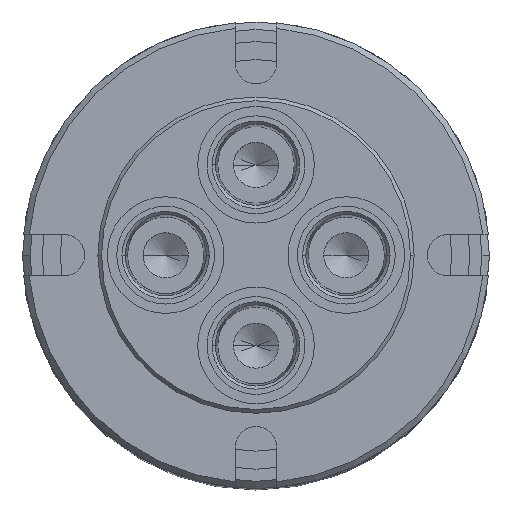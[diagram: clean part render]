
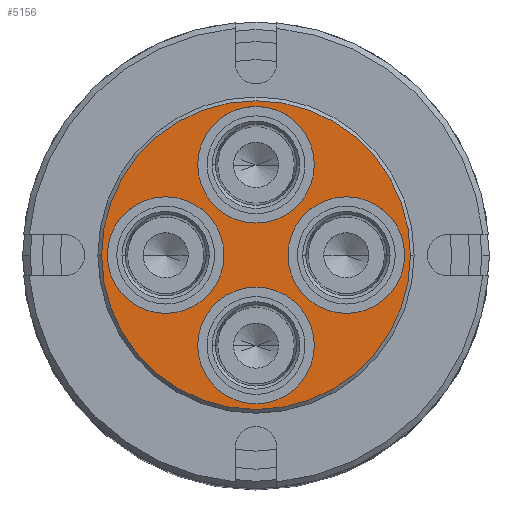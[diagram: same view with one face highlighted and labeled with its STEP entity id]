
A CAD part, top view. The second image highlights one B-rep face of the part: STEP entity #5156.
In plain terms, the highlighted planar face has unit normal (0, 0, 1).
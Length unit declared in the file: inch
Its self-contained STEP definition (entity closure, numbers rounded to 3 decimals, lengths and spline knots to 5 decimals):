
#32 = AXIS2_PLACEMENT_3D ( 'NONE', #6604, #6605, #6606 ) ;
#125 = CIRCLE ( 'NONE', #32, 0.484 ) ;
#148 = AXIS2_PLACEMENT_3D ( 'NONE', #6716, #6717, #6718 ) ;
#253 = CIRCLE ( 'NONE', #148, 0.484 ) ;
#311 = VERTEX_POINT ( 'NONE', #1729 ) ;
#390 = VERTEX_POINT ( 'NONE', #1762 ) ;
#435 = VERTEX_POINT ( 'NONE', #1803 ) ;
#446 = VERTEX_POINT ( 'NONE', #1811 ) ;
#464 = VERTEX_POINT ( 'NONE', #1827 ) ;
#469 = VERTEX_POINT ( 'NONE', #1832 ) ;
#508 = VERTEX_POINT ( 'NONE', #1858 ) ;
#565 = VERTEX_POINT ( 'NONE', #1910 ) ;
#658 = AXIS2_PLACEMENT_3D ( 'NONE', #3019, #3020, #3021 ) ;
#670 = AXIS2_PLACEMENT_3D ( 'NONE', #4291, #4292, #4293 ) ;
#673 = AXIS2_PLACEMENT_3D ( 'NONE', #2046, #2047, #2048 ) ;
#766 = CIRCLE ( 'NONE', #866, 0.484 ) ;
#810 = CIRCLE ( 'NONE', #670, 0.484 ) ;
#866 = AXIS2_PLACEMENT_3D ( 'NONE', #2816, #2817, #2818 ) ;
#873 = CIRCLE ( 'NONE', #1010, 1.2815 ) ;
#893 = CIRCLE ( 'NONE', #658, 0.484 ) ;
#923 = CIRCLE ( 'NONE', #1085, 0.484 ) ;
#954 = AXIS2_PLACEMENT_3D ( 'NONE', #2183, #2184, #2185 ) ;
#1010 = AXIS2_PLACEMENT_3D ( 'NONE', #1927, #1928, #1929 ) ;
#1085 = AXIS2_PLACEMENT_3D ( 'NONE', #3287, #3288, #3289 ) ;
#1165 = CIRCLE ( 'NONE', #954, 0.484 ) ;
#1245 = CARTESIAN_POINT ( 'NONE',  ( 0.484, -0.75, 0. ) ) ;
#1296 = CIRCLE ( 'NONE', #1308, 1.2815 ) ;
#1308 = AXIS2_PLACEMENT_3D ( 'NONE', #4445, #4446, #4447 ) ;
#1480 = ORIENTED_EDGE ( 'NONE', *, *, #5574, .T. ) ;
#1729 = CARTESIAN_POINT ( 'NONE',  ( -1.234, 0., 0. ) ) ;
#1762 = CARTESIAN_POINT ( 'NONE',  ( -0.266, 0., 0. ) ) ;
#1803 = CARTESIAN_POINT ( 'NONE',  ( 1.234, 0., 0. ) ) ;
#1811 = CARTESIAN_POINT ( 'NONE',  ( 0.484, 0.75, 0. ) ) ;
#1827 = CARTESIAN_POINT ( 'NONE',  ( 0.266, 0., 0. ) ) ;
#1832 = CARTESIAN_POINT ( 'NONE',  ( 1.2815, 0., 0. ) ) ;
#1858 = CARTESIAN_POINT ( 'NONE',  ( -0.484, 0.75, 0. ) ) ;
#1910 = CARTESIAN_POINT ( 'NONE',  ( -1.2815, 0., 0. ) ) ;
#1927 = CARTESIAN_POINT ( 'NONE',  ( 0., 0., 0. ) ) ;
#1928 = DIRECTION ( 'NONE',  ( 0., 0., 1. ) ) ;
#1929 = DIRECTION ( 'NONE',  ( -1., 0., 0. ) ) ;
#2029 = FACE_OUTER_BOUND ( 'NONE', #7162, .T. ) ;
#2030 = FACE_BOUND ( 'NONE', #5044, .T. ) ;
#2031 = PLANE ( 'NONE',  #673 ) ;
#2032 = FACE_BOUND ( 'NONE', #5059, .T. ) ;
#2033 = FACE_BOUND ( 'NONE', #7164, .T. ) ;
#2035 = FACE_BOUND ( 'NONE', #5106, .T. ) ;
#2046 = CARTESIAN_POINT ( 'NONE',  ( 0., 0., 0. ) ) ;
#2047 = DIRECTION ( 'NONE',  ( 0., 0., -1. ) ) ;
#2048 = DIRECTION ( 'NONE',  ( -1., 0., 0. ) ) ;
#2183 = CARTESIAN_POINT ( 'NONE',  ( 0., -0.75, 0. ) ) ;
#2184 = DIRECTION ( 'NONE',  ( 0., 0., 1. ) ) ;
#2185 = DIRECTION ( 'NONE',  ( -1., 0., 0. ) ) ;
#2816 = CARTESIAN_POINT ( 'NONE',  ( 0.75, 0., 0. ) ) ;
#2817 = DIRECTION ( 'NONE',  ( 0., 0., 1. ) ) ;
#2818 = DIRECTION ( 'NONE',  ( 0., -1., 0. ) ) ;
#3019 = CARTESIAN_POINT ( 'NONE',  ( 0., 0.75, 0. ) ) ;
#3020 = DIRECTION ( 'NONE',  ( 0., 0., 1. ) ) ;
#3021 = DIRECTION ( 'NONE',  ( 1., 0., 0. ) ) ;
#3287 = CARTESIAN_POINT ( 'NONE',  ( 0.75, 0., 0. ) ) ;
#3288 = DIRECTION ( 'NONE',  ( 0., 0., 1. ) ) ;
#3289 = DIRECTION ( 'NONE',  ( 0., -1., 0. ) ) ;
#4291 = CARTESIAN_POINT ( 'NONE',  ( 0., -0.75, 0. ) ) ;
#4292 = DIRECTION ( 'NONE',  ( 0., 0., 1. ) ) ;
#4293 = DIRECTION ( 'NONE',  ( -1., 0., 0. ) ) ;
#4445 = CARTESIAN_POINT ( 'NONE',  ( 0., 0., 0. ) ) ;
#4446 = DIRECTION ( 'NONE',  ( 0., 0., 1. ) ) ;
#4447 = DIRECTION ( 'NONE',  ( -1., 0., 0. ) ) ;
#4567 = CARTESIAN_POINT ( 'NONE',  ( -0.75, 0., 0. ) ) ;
#4568 = DIRECTION ( 'NONE',  ( 0., 0., 1. ) ) ;
#4569 = DIRECTION ( 'NONE',  ( 0., 1., 0. ) ) ;
#4731 = ORIENTED_EDGE ( 'NONE', *, *, #5138, .T. ) ;
#4741 = ORIENTED_EDGE ( 'NONE', *, *, #5777, .F. ) ;
#4763 = ORIENTED_EDGE ( 'NONE', *, *, #5610, .F. ) ;
#4765 = ORIENTED_EDGE ( 'NONE', *, *, #5182, .F. ) ;
#4766 = ORIENTED_EDGE ( 'NONE', *, *, #5377, .F. ) ;
#4767 = ORIENTED_EDGE ( 'NONE', *, *, #5540, .F. ) ;
#4768 = ORIENTED_EDGE ( 'NONE', *, *, #5753, .F. ) ;
#4769 = ORIENTED_EDGE ( 'NONE', *, *, #5329, .F. ) ;
#4770 = ORIENTED_EDGE ( 'NONE', *, *, #5292, .F. ) ;
#4819 = AXIS2_PLACEMENT_3D ( 'NONE', #4567, #4568, #4569 ) ;
#4860 = CIRCLE ( 'NONE', #4819, 0.484 ) ;
#5044 = EDGE_LOOP ( 'NONE', ( #4763, #4741 ) ) ;
#5059 = EDGE_LOOP ( 'NONE', ( #4767, #4765 ) ) ;
#5106 = EDGE_LOOP ( 'NONE', ( #4768, #4769 ) ) ;
#5138 = EDGE_CURVE ( 'NONE', #565, #469, #873, .T. ) ;
#5156 = ADVANCED_FACE ( 'NONE', ( #2030, #2032, #2033, #2035, #2029 ), #2031, .F. ) ;
#5182 = EDGE_CURVE ( 'NONE', #6991, #7117, #1165, .T. ) ;
#5292 = EDGE_CURVE ( 'NONE', #435, #464, #766, .T. ) ;
#5329 = EDGE_CURVE ( 'NONE', #508, #446, #893, .T. ) ;
#5377 = EDGE_CURVE ( 'NONE', #464, #435, #923, .T. ) ;
#5540 = EDGE_CURVE ( 'NONE', #7117, #6991, #810, .T. ) ;
#5574 = EDGE_CURVE ( 'NONE', #469, #565, #1296, .T. ) ;
#5610 = EDGE_CURVE ( 'NONE', #390, #311, #4860, .T. ) ;
#5753 = EDGE_CURVE ( 'NONE', #446, #508, #125, .T. ) ;
#5777 = EDGE_CURVE ( 'NONE', #311, #390, #253, .T. ) ;
#6604 = CARTESIAN_POINT ( 'NONE',  ( 0., 0.75, 0. ) ) ;
#6605 = DIRECTION ( 'NONE',  ( 0., 0., 1. ) ) ;
#6606 = DIRECTION ( 'NONE',  ( 1., 0., 0. ) ) ;
#6716 = CARTESIAN_POINT ( 'NONE',  ( -0.75, 0., 0. ) ) ;
#6717 = DIRECTION ( 'NONE',  ( 0., 0., 1. ) ) ;
#6718 = DIRECTION ( 'NONE',  ( 0., 1., 0. ) ) ;
#6862 = CARTESIAN_POINT ( 'NONE',  ( -0.484, -0.75, 0. ) ) ;
#6991 = VERTEX_POINT ( 'NONE', #6862 ) ;
#7117 = VERTEX_POINT ( 'NONE', #1245 ) ;
#7162 = EDGE_LOOP ( 'NONE', ( #4731, #1480 ) ) ;
#7164 = EDGE_LOOP ( 'NONE', ( #4770, #4766 ) ) ;
